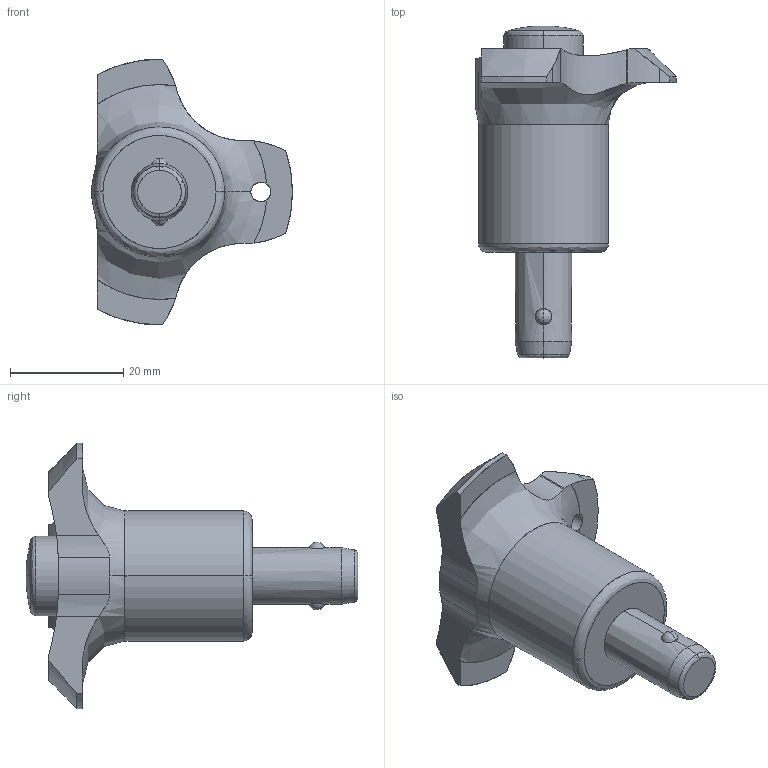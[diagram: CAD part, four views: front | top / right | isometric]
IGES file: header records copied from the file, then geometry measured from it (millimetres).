
Start section: SolidWorks IGES file using analytic representation for surfaces
Global section: file name: C:\Users\ianosborn\Desktop\33180_v2\33180_v2_20250106_IGES\33180.W0032.igs; native system: SolidWorks 2019; preprocessor: SolidWorks 2019; author: IanOsborn; date: 250106.111518; units: millimetre
Bounding box: 35.5 x 58.7 x 46.99 mm (x, y, z)
Surface area: 8421.6 mm2 (no closed solid volume)
Topology: 0 solids, 0 shells, 68 faces, 1008 edges, 1007 vertices
Faces by surface type: revolution 40, bspline 28
